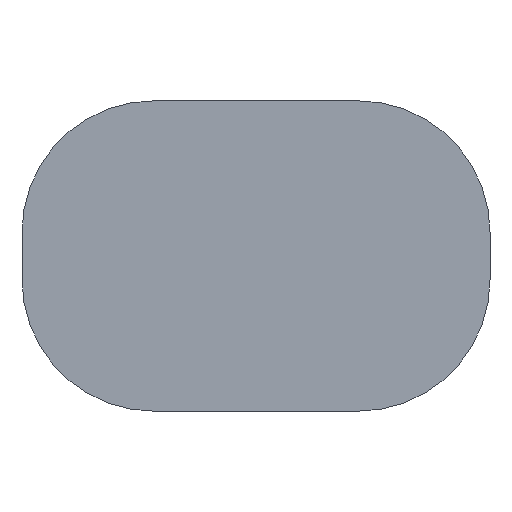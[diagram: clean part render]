
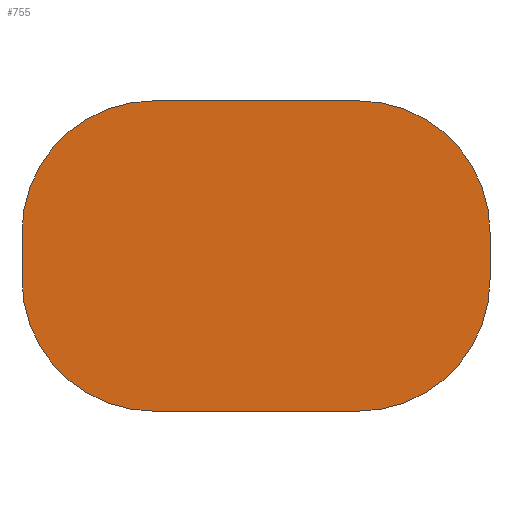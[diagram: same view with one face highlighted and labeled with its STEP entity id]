
A CAD part, left-side view. The second image highlights one B-rep face of the part: STEP entity #755.
In plain terms, the highlighted planar face has unit normal (-1, 0, 0).
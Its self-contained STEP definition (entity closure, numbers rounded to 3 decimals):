
#32 = PLANE('',#33);
#33 = AXIS2_PLACEMENT_3D('',#34,#35,#36);
#34 = CARTESIAN_POINT('',(43.5,21.1,5.9));
#35 = DIRECTION('',(0.,0.,-1.));
#36 = DIRECTION('',(1.,0.,0.));
#57 = VERTEX_POINT('',#58);
#58 = CARTESIAN_POINT('',(43.5,26.1,5.9));
#72 = CYLINDRICAL_SURFACE('',#73,5.);
#73 = AXIS2_PLACEMENT_3D('',#74,#75,#76);
#74 = CARTESIAN_POINT('',(43.5,26.1,0.9));
#75 = DIRECTION('',(1.,0.,0.));
#76 = DIRECTION('',(0.,0.,1.));
#84 = EDGE_CURVE('',#57,#85,#87,.T.);
#85 = VERTEX_POINT('',#86);
#86 = CARTESIAN_POINT('',(43.5,33.9,5.9));
#87 = SURFACE_CURVE('',#88,(#92,#99),.PCURVE_S1.);
#88 = LINE('',#89,#90);
#89 = CARTESIAN_POINT('',(43.5,21.1,5.9));
#90 = VECTOR('',#91,1.);
#91 = DIRECTION('',(0.,1.,0.));
#92 = PCURVE('',#32,#93);
#93 = DEFINITIONAL_REPRESENTATION('',(#94),#98);
#94 = LINE('',#95,#96);
#95 = CARTESIAN_POINT('',(0.,0.));
#96 = VECTOR('',#97,1.);
#97 = DIRECTION('',(0.,-1.));
#98 = ( GEOMETRIC_REPRESENTATION_CONTEXT(2) 
PARAMETRIC_REPRESENTATION_CONTEXT() REPRESENTATION_CONTEXT('2D SPACE',''
  ) );
#99 = PCURVE('',#100,#105);
#100 = PLANE('',#101);
#101 = AXIS2_PLACEMENT_3D('',#102,#103,#104);
#102 = CARTESIAN_POINT('',(43.5,21.1,5.9));
#103 = DIRECTION('',(1.,0.,0.));
#104 = DIRECTION('',(0.,0.,-1.));
#105 = DEFINITIONAL_REPRESENTATION('',(#106),#110);
#106 = LINE('',#107,#108);
#107 = CARTESIAN_POINT('',(0.,0.));
#108 = VECTOR('',#109,1.);
#109 = DIRECTION('',(0.,1.));
#110 = ( GEOMETRIC_REPRESENTATION_CONTEXT(2) 
PARAMETRIC_REPRESENTATION_CONTEXT() REPRESENTATION_CONTEXT('2D SPACE',''
  ) );
#126 = CYLINDRICAL_SURFACE('',#127,5.);
#127 = AXIS2_PLACEMENT_3D('',#128,#129,#130);
#128 = CARTESIAN_POINT('',(43.5,33.9,0.9));
#129 = DIRECTION('',(1.,0.,0.));
#130 = DIRECTION('',(0.,0.,1.));
#182 = PLANE('',#183);
#183 = AXIS2_PLACEMENT_3D('',#184,#185,#186);
#184 = CARTESIAN_POINT('',(43.5,21.1,5.9));
#185 = DIRECTION('',(0.,1.,0.));
#186 = DIRECTION('',(1.,0.,0.));
#215 = CYLINDRICAL_SURFACE('',#216,5.);
#216 = AXIS2_PLACEMENT_3D('',#217,#218,#219);
#217 = CARTESIAN_POINT('',(43.5,26.1,-0.9));
#218 = DIRECTION('',(1.,0.,0.));
#219 = DIRECTION('',(0.,0.,-1.));
#243 = PLANE('',#244);
#244 = AXIS2_PLACEMENT_3D('',#245,#246,#247);
#245 = CARTESIAN_POINT('',(43.5,21.1,-5.9));
#246 = DIRECTION('',(0.,0.,-1.));
#247 = DIRECTION('',(1.,0.,0.));
#272 = CYLINDRICAL_SURFACE('',#273,5.);
#273 = AXIS2_PLACEMENT_3D('',#274,#275,#276);
#274 = CARTESIAN_POINT('',(43.5,33.9,-0.9));
#275 = DIRECTION('',(1.,0.,0.));
#276 = DIRECTION('',(0.,0.,-1.));
#300 = PLANE('',#301);
#301 = AXIS2_PLACEMENT_3D('',#302,#303,#304);
#302 = CARTESIAN_POINT('',(43.5,38.9,5.9));
#303 = DIRECTION('',(0.,1.,0.));
#304 = DIRECTION('',(1.,0.,0.));
#655 = EDGE_CURVE('',#57,#656,#658,.T.);
#656 = VERTEX_POINT('',#657);
#657 = CARTESIAN_POINT('',(43.5,21.1,0.9));
#658 = SURFACE_CURVE('',#659,(#664,#671),.PCURVE_S1.);
#659 = CIRCLE('',#660,5.);
#660 = AXIS2_PLACEMENT_3D('',#661,#662,#663);
#661 = CARTESIAN_POINT('',(43.5,26.1,0.9));
#662 = DIRECTION('',(1.,0.,0.));
#663 = DIRECTION('',(0.,-1.,0.));
#664 = PCURVE('',#72,#665);
#665 = DEFINITIONAL_REPRESENTATION('',(#666),#670);
#666 = LINE('',#667,#668);
#667 = CARTESIAN_POINT('',(-4.712,0.));
#668 = VECTOR('',#669,1.);
#669 = DIRECTION('',(1.,0.));
#670 = ( GEOMETRIC_REPRESENTATION_CONTEXT(2) 
PARAMETRIC_REPRESENTATION_CONTEXT() REPRESENTATION_CONTEXT('2D SPACE',''
  ) );
#671 = PCURVE('',#100,#672);
#672 = DEFINITIONAL_REPRESENTATION('',(#673),#677);
#673 = CIRCLE('',#674,5.);
#674 = AXIS2_PLACEMENT_2D('',#675,#676);
#675 = CARTESIAN_POINT('',(5.,5.));
#676 = DIRECTION('',(0.,-1.));
#677 = ( GEOMETRIC_REPRESENTATION_CONTEXT(2) 
PARAMETRIC_REPRESENTATION_CONTEXT() REPRESENTATION_CONTEXT('2D SPACE',''
  ) );
#705 = EDGE_CURVE('',#85,#706,#708,.T.);
#706 = VERTEX_POINT('',#707);
#707 = CARTESIAN_POINT('',(43.5,38.9,0.9));
#708 = SURFACE_CURVE('',#709,(#714,#721),.PCURVE_S1.);
#709 = CIRCLE('',#710,5.);
#710 = AXIS2_PLACEMENT_3D('',#711,#712,#713);
#711 = CARTESIAN_POINT('',(43.5,33.9,0.9));
#712 = DIRECTION('',(-1.,-0.,0.));
#713 = DIRECTION('',(0.,-1.,0.));
#714 = PCURVE('',#126,#715);
#715 = DEFINITIONAL_REPRESENTATION('',(#716),#720);
#716 = LINE('',#717,#718);
#717 = CARTESIAN_POINT('',(1.571,-0.));
#718 = VECTOR('',#719,1.);
#719 = DIRECTION('',(-1.,0.));
#720 = ( GEOMETRIC_REPRESENTATION_CONTEXT(2) 
PARAMETRIC_REPRESENTATION_CONTEXT() REPRESENTATION_CONTEXT('2D SPACE',''
  ) );
#721 = PCURVE('',#100,#722);
#722 = DEFINITIONAL_REPRESENTATION('',(#723),#731);
#723 = ( BOUNDED_CURVE() B_SPLINE_CURVE(2,(#724,#725,#726,#727,#728,#729
,#730),.UNSPECIFIED.,.T.,.F.) B_SPLINE_CURVE_WITH_KNOTS((1,2,2,2,2,1),(
    -2.094,0.,2.094,4.189,6.283,
8.378),.UNSPECIFIED.) CURVE() GEOMETRIC_REPRESENTATION_ITEM() 
RATIONAL_B_SPLINE_CURVE((1.,0.5,1.,0.5,1.,0.5,1.)) REPRESENTATION_ITEM(
  '') );
#724 = CARTESIAN_POINT('',(5.,7.8));
#725 = CARTESIAN_POINT('',(-3.66,7.8));
#726 = CARTESIAN_POINT('',(0.67,15.3));
#727 = CARTESIAN_POINT('',(5.,22.8));
#728 = CARTESIAN_POINT('',(9.33,15.3));
#729 = CARTESIAN_POINT('',(13.66,7.8));
#730 = CARTESIAN_POINT('',(5.,7.8));
#731 = ( GEOMETRIC_REPRESENTATION_CONTEXT(2) 
PARAMETRIC_REPRESENTATION_CONTEXT() REPRESENTATION_CONTEXT('2D SPACE',''
  ) );
#755 = ADVANCED_FACE('',(#756),#100,.F.);
#756 = FACE_BOUND('',#757,.F.);
#757 = EDGE_LOOP('',(#758,#759,#760,#783,#811,#834,#858,#879));
#758 = ORIENTED_EDGE('',*,*,#84,.F.);
#759 = ORIENTED_EDGE('',*,*,#655,.T.);
#760 = ORIENTED_EDGE('',*,*,#761,.T.);
#761 = EDGE_CURVE('',#656,#762,#764,.T.);
#762 = VERTEX_POINT('',#763);
#763 = CARTESIAN_POINT('',(43.5,21.1,-0.9));
#764 = SURFACE_CURVE('',#765,(#769,#776),.PCURVE_S1.);
#765 = LINE('',#766,#767);
#766 = CARTESIAN_POINT('',(43.5,21.1,5.9));
#767 = VECTOR('',#768,1.);
#768 = DIRECTION('',(0.,0.,-1.));
#769 = PCURVE('',#100,#770);
#770 = DEFINITIONAL_REPRESENTATION('',(#771),#775);
#771 = LINE('',#772,#773);
#772 = CARTESIAN_POINT('',(0.,0.));
#773 = VECTOR('',#774,1.);
#774 = DIRECTION('',(1.,0.));
#775 = ( GEOMETRIC_REPRESENTATION_CONTEXT(2) 
PARAMETRIC_REPRESENTATION_CONTEXT() REPRESENTATION_CONTEXT('2D SPACE',''
  ) );
#776 = PCURVE('',#182,#777);
#777 = DEFINITIONAL_REPRESENTATION('',(#778),#782);
#778 = LINE('',#779,#780);
#779 = CARTESIAN_POINT('',(0.,0.));
#780 = VECTOR('',#781,1.);
#781 = DIRECTION('',(0.,1.));
#782 = ( GEOMETRIC_REPRESENTATION_CONTEXT(2) 
PARAMETRIC_REPRESENTATION_CONTEXT() REPRESENTATION_CONTEXT('2D SPACE',''
  ) );
#783 = ORIENTED_EDGE('',*,*,#784,.F.);
#784 = EDGE_CURVE('',#785,#762,#787,.T.);
#785 = VERTEX_POINT('',#786);
#786 = CARTESIAN_POINT('',(43.5,26.1,-5.9));
#787 = SURFACE_CURVE('',#788,(#793,#804),.PCURVE_S1.);
#788 = CIRCLE('',#789,5.);
#789 = AXIS2_PLACEMENT_3D('',#790,#791,#792);
#790 = CARTESIAN_POINT('',(43.5,26.1,-0.9));
#791 = DIRECTION('',(-1.,-0.,0.));
#792 = DIRECTION('',(0.,-1.,0.));
#793 = PCURVE('',#100,#794);
#794 = DEFINITIONAL_REPRESENTATION('',(#795),#803);
#795 = ( BOUNDED_CURVE() B_SPLINE_CURVE(2,(#796,#797,#798,#799,#800,#801
,#802),.UNSPECIFIED.,.T.,.F.) B_SPLINE_CURVE_WITH_KNOTS((1,2,2,2,2,1),(
    -2.094,0.,2.094,4.189,6.283,
8.378),.UNSPECIFIED.) CURVE() GEOMETRIC_REPRESENTATION_ITEM() 
RATIONAL_B_SPLINE_CURVE((1.,0.5,1.,0.5,1.,0.5,1.)) REPRESENTATION_ITEM(
  '') );
#796 = CARTESIAN_POINT('',(6.8,0.));
#797 = CARTESIAN_POINT('',(-1.86,0.));
#798 = CARTESIAN_POINT('',(2.47,7.5));
#799 = CARTESIAN_POINT('',(6.8,15.));
#800 = CARTESIAN_POINT('',(11.13,7.5));
#801 = CARTESIAN_POINT('',(15.46,0.));
#802 = CARTESIAN_POINT('',(6.8,0.));
#803 = ( GEOMETRIC_REPRESENTATION_CONTEXT(2) 
PARAMETRIC_REPRESENTATION_CONTEXT() REPRESENTATION_CONTEXT('2D SPACE',''
  ) );
#804 = PCURVE('',#215,#805);
#805 = DEFINITIONAL_REPRESENTATION('',(#806),#810);
#806 = LINE('',#807,#808);
#807 = CARTESIAN_POINT('',(4.712,-0.));
#808 = VECTOR('',#809,1.);
#809 = DIRECTION('',(-1.,0.));
#810 = ( GEOMETRIC_REPRESENTATION_CONTEXT(2) 
PARAMETRIC_REPRESENTATION_CONTEXT() REPRESENTATION_CONTEXT('2D SPACE',''
  ) );
#811 = ORIENTED_EDGE('',*,*,#812,.T.);
#812 = EDGE_CURVE('',#785,#813,#815,.T.);
#813 = VERTEX_POINT('',#814);
#814 = CARTESIAN_POINT('',(43.5,33.9,-5.9));
#815 = SURFACE_CURVE('',#816,(#820,#827),.PCURVE_S1.);
#816 = LINE('',#817,#818);
#817 = CARTESIAN_POINT('',(43.5,21.1,-5.9));
#818 = VECTOR('',#819,1.);
#819 = DIRECTION('',(0.,1.,0.));
#820 = PCURVE('',#100,#821);
#821 = DEFINITIONAL_REPRESENTATION('',(#822),#826);
#822 = LINE('',#823,#824);
#823 = CARTESIAN_POINT('',(11.8,0.));
#824 = VECTOR('',#825,1.);
#825 = DIRECTION('',(0.,1.));
#826 = ( GEOMETRIC_REPRESENTATION_CONTEXT(2) 
PARAMETRIC_REPRESENTATION_CONTEXT() REPRESENTATION_CONTEXT('2D SPACE',''
  ) );
#827 = PCURVE('',#243,#828);
#828 = DEFINITIONAL_REPRESENTATION('',(#829),#833);
#829 = LINE('',#830,#831);
#830 = CARTESIAN_POINT('',(0.,0.));
#831 = VECTOR('',#832,1.);
#832 = DIRECTION('',(0.,-1.));
#833 = ( GEOMETRIC_REPRESENTATION_CONTEXT(2) 
PARAMETRIC_REPRESENTATION_CONTEXT() REPRESENTATION_CONTEXT('2D SPACE',''
  ) );
#834 = ORIENTED_EDGE('',*,*,#835,.T.);
#835 = EDGE_CURVE('',#813,#836,#838,.T.);
#836 = VERTEX_POINT('',#837);
#837 = CARTESIAN_POINT('',(43.5,38.9,-0.9));
#838 = SURFACE_CURVE('',#839,(#844,#851),.PCURVE_S1.);
#839 = CIRCLE('',#840,5.);
#840 = AXIS2_PLACEMENT_3D('',#841,#842,#843);
#841 = CARTESIAN_POINT('',(43.5,33.9,-0.9));
#842 = DIRECTION('',(1.,0.,0.));
#843 = DIRECTION('',(0.,-1.,0.));
#844 = PCURVE('',#100,#845);
#845 = DEFINITIONAL_REPRESENTATION('',(#846),#850);
#846 = CIRCLE('',#847,5.);
#847 = AXIS2_PLACEMENT_2D('',#848,#849);
#848 = CARTESIAN_POINT('',(6.8,12.8));
#849 = DIRECTION('',(0.,-1.));
#850 = ( GEOMETRIC_REPRESENTATION_CONTEXT(2) 
PARAMETRIC_REPRESENTATION_CONTEXT() REPRESENTATION_CONTEXT('2D SPACE',''
  ) );
#851 = PCURVE('',#272,#852);
#852 = DEFINITIONAL_REPRESENTATION('',(#853),#857);
#853 = LINE('',#854,#855);
#854 = CARTESIAN_POINT('',(-1.571,0.));
#855 = VECTOR('',#856,1.);
#856 = DIRECTION('',(1.,0.));
#857 = ( GEOMETRIC_REPRESENTATION_CONTEXT(2) 
PARAMETRIC_REPRESENTATION_CONTEXT() REPRESENTATION_CONTEXT('2D SPACE',''
  ) );
#858 = ORIENTED_EDGE('',*,*,#859,.F.);
#859 = EDGE_CURVE('',#706,#836,#860,.T.);
#860 = SURFACE_CURVE('',#861,(#865,#872),.PCURVE_S1.);
#861 = LINE('',#862,#863);
#862 = CARTESIAN_POINT('',(43.5,38.9,5.9));
#863 = VECTOR('',#864,1.);
#864 = DIRECTION('',(0.,0.,-1.));
#865 = PCURVE('',#100,#866);
#866 = DEFINITIONAL_REPRESENTATION('',(#867),#871);
#867 = LINE('',#868,#869);
#868 = CARTESIAN_POINT('',(0.,17.8));
#869 = VECTOR('',#870,1.);
#870 = DIRECTION('',(1.,0.));
#871 = ( GEOMETRIC_REPRESENTATION_CONTEXT(2) 
PARAMETRIC_REPRESENTATION_CONTEXT() REPRESENTATION_CONTEXT('2D SPACE',''
  ) );
#872 = PCURVE('',#300,#873);
#873 = DEFINITIONAL_REPRESENTATION('',(#874),#878);
#874 = LINE('',#875,#876);
#875 = CARTESIAN_POINT('',(0.,0.));
#876 = VECTOR('',#877,1.);
#877 = DIRECTION('',(0.,1.));
#878 = ( GEOMETRIC_REPRESENTATION_CONTEXT(2) 
PARAMETRIC_REPRESENTATION_CONTEXT() REPRESENTATION_CONTEXT('2D SPACE',''
  ) );
#879 = ORIENTED_EDGE('',*,*,#705,.F.);
